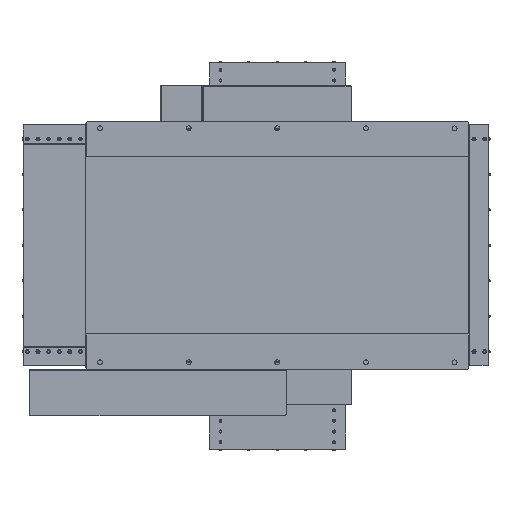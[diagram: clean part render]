
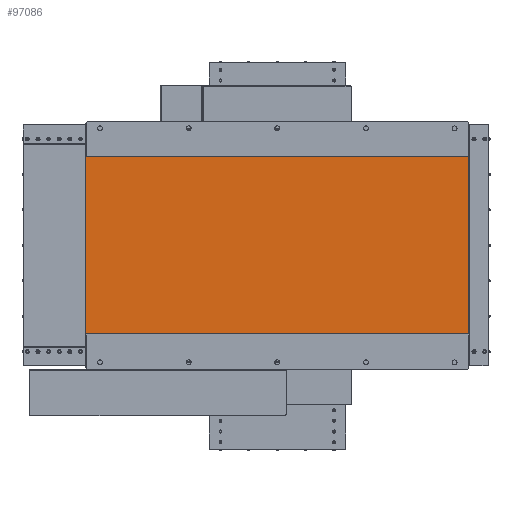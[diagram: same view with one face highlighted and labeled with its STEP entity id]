
A CAD part, front view. The second image highlights one B-rep face of the part: STEP entity #97086.
In plain terms, the highlighted planar face has unit normal (0, -1, 0).
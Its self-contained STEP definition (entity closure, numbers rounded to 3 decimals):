
#9014 = VECTOR ( 'NONE', #91510, 1000. ) ;
#10211 = ORIENTED_EDGE ( 'NONE', *, *, #104841, .F. ) ;
#20657 = VERTEX_POINT ( 'NONE', #100120 ) ;
#22788 = DIRECTION ( 'NONE',  ( 1., 0., 0. ) ) ;
#24651 = VECTOR ( 'NONE', #42235, 1000. ) ;
#24895 = CARTESIAN_POINT ( 'NONE',  ( 540., 1., -250. ) ) ;
#29082 = EDGE_CURVE ( 'NONE', #121912, #66225, #49000, .T. ) ;
#29920 = CARTESIAN_POINT ( 'NONE',  ( -540., 1., 250. ) ) ;
#40318 = DIRECTION ( 'NONE',  ( 0., 0., 1. ) ) ;
#42235 = DIRECTION ( 'NONE',  ( 0., 0., 1. ) ) ;
#43196 = AXIS2_PLACEMENT_3D ( 'NONE', #29920, #80455, #110335 ) ;
#44954 = CARTESIAN_POINT ( 'NONE',  ( 540., 1., 250. ) ) ;
#45522 = CARTESIAN_POINT ( 'NONE',  ( -540., 1., 250. ) ) ;
#49000 = LINE ( 'NONE', #122288, #59897 ) ;
#51111 = LINE ( 'NONE', #90130, #24651 ) ;
#59897 = VECTOR ( 'NONE', #22788, 1000. ) ;
#65034 = LINE ( 'NONE', #73185, #9014 ) ;
#66225 = VERTEX_POINT ( 'NONE', #44954 ) ;
#68526 = ORIENTED_EDGE ( 'NONE', *, *, #29082, .F. ) ;
#73185 = CARTESIAN_POINT ( 'NONE',  ( -540., 1., -250. ) ) ;
#79636 = FACE_OUTER_BOUND ( 'NONE', #116257, .T. ) ;
#79952 = CARTESIAN_POINT ( 'NONE',  ( -540., 1., 250. ) ) ;
#79963 = VECTOR ( 'NONE', #40318, 1000. ) ;
#80455 = DIRECTION ( 'NONE',  ( 0., 1., 0. ) ) ;
#88089 = EDGE_CURVE ( 'NONE', #20657, #101346, #65034, .T. ) ;
#90130 = CARTESIAN_POINT ( 'NONE',  ( 540., 1., 250. ) ) ;
#90460 = PLANE ( 'NONE',  #43196 ) ;
#91510 = DIRECTION ( 'NONE',  ( 1., 0., 0. ) ) ;
#92145 = EDGE_CURVE ( 'NONE', #101346, #66225, #51111, .T. ) ;
#97086 = ADVANCED_FACE ( 'NONE', ( #79636 ), #90460, .F. ) ;
#100120 = CARTESIAN_POINT ( 'NONE',  ( -540., 1., -250. ) ) ;
#101346 = VERTEX_POINT ( 'NONE', #24895 ) ;
#101959 = ORIENTED_EDGE ( 'NONE', *, *, #88089, .T. ) ;
#104841 = EDGE_CURVE ( 'NONE', #20657, #121912, #124855, .T. ) ;
#110335 = DIRECTION ( 'NONE',  ( 0., 0., 1. ) ) ;
#111778 = ORIENTED_EDGE ( 'NONE', *, *, #92145, .T. ) ;
#116257 = EDGE_LOOP ( 'NONE', ( #111778, #68526, #10211, #101959 ) ) ;
#121912 = VERTEX_POINT ( 'NONE', #45522 ) ;
#122288 = CARTESIAN_POINT ( 'NONE',  ( -540., 1., 250. ) ) ;
#124855 = LINE ( 'NONE', #79952, #79963 ) ;
